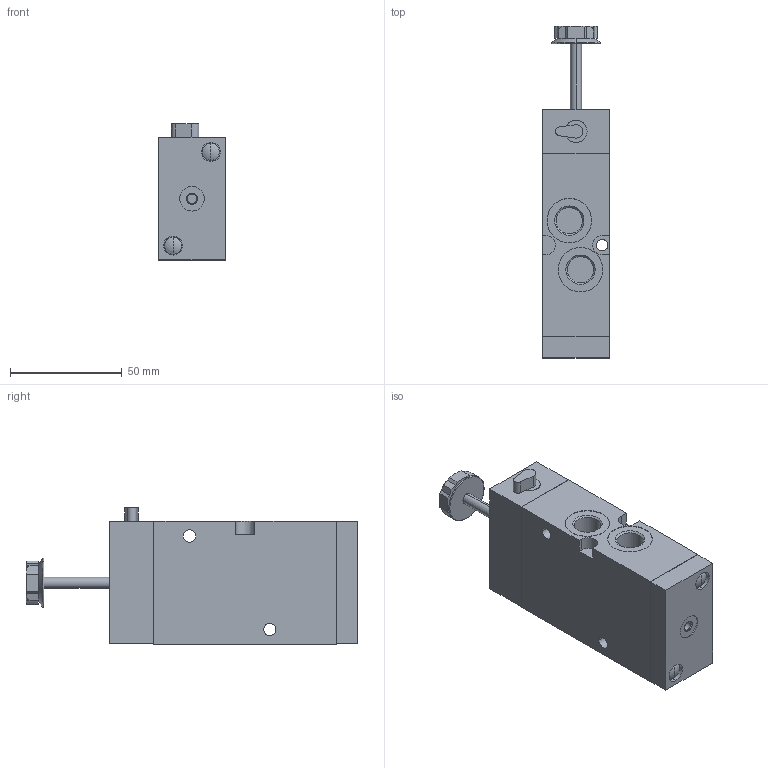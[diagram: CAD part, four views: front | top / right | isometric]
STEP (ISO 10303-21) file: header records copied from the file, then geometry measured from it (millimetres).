
FILE_DESCRIPTION((''),'2;1');
FILE_NAME('5776085302','2018-07-20T',('tng2hc'),(''),'CREO PARAMETRIC BY PTC INC, 2016260','CREO PARAMETRIC BY PTC INC, 2016260','');
FILE_SCHEMA(('CONFIG_CONTROL_DESIGN'));
Length unit declared in the file: millimetre
Products named in the file (1): 5776085302
Bounding box: 30 x 148.8 x 61.1 mm (x, y, z)
Volume: 176028.7 mm3; surface area: 29109.9 mm2
Topology: 1 solids, 1 shells, 149 faces, 348 edges, 221 vertices
Faces by surface type: plane 71, cylinder 46, cone 22, sphere 6, torus 4
Entity records: 4543 total; most frequent: CARTESIAN_POINT 1002, DIRECTION 756, ORIENTED_EDGE 684, EDGE_CURVE 342, AXIS2_PLACEMENT_3D 287, VERTEX_POINT 221, VECTOR 182, LINE 182
